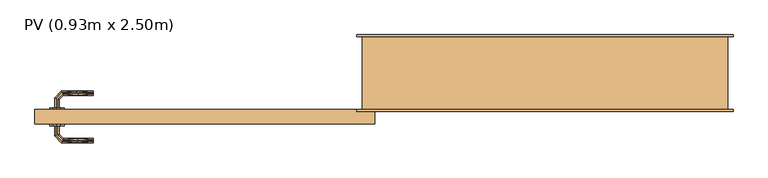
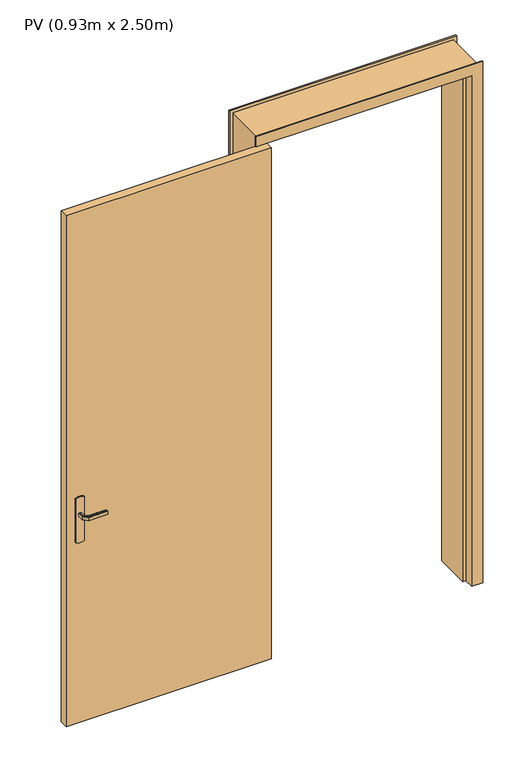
"""IFC4 building model written with IfcOpenShell, lengths in millimetres: door geometry, PV (0.93m x 2.50m)."""

from ifc_helpers import new_model, si_unit, frame, origin, origin_with_axes, place, context, project, spatial, polyline, outline, extrude, faceted_brep, source, transform, mapped, element, save


def pv_0_93m_x_2_50m_2b6c2bcb(model_context):
    return source(origin(), model_context, "Body", "SolidModel", [
        extrude(outline(polyline([(1080.0, -785.0), (870.0, -785.0), (866.0039831, -775.3527618), (864.6410162, -765.0), (866.0039831, -754.6472382), (870.0, -745.0), (1080.0, -745.0), (1083.9960169, -754.6472382), (1085.3589838, -765.0), (1083.9960169, -775.3527618), (1080.0, -785.0)])), frame((0.0, 0.0, 0.0), z_axis=(0.0, 1.0, 0.0), x_axis=(0.0, 0.0, 1.0)), (0.0, 0.0, 1.0), 5.0),
        extrude(outline(polyline([(-825.0, -40.0), (-825.0, 0.0), (105.0, 0.0), (105.0, -40.0), (-825.0, -40.0)])), origin_with_axes(), (0.0, 0.0, 1.0), 2450.0),
        extrude(outline(polyline([(1085.3589838, -765.0), (1083.9960169, -775.3527618), (1080.0, -785.0), (870.0, -785.0), (866.0039831, -775.3527618), (864.6410162, -765.0), (866.0039831, -754.6472382), (870.0, -745.0), (1080.0, -745.0), (1083.9960169, -754.6472382), (1085.3589838, -765.0)])), frame((0.0, -45.0, 0.0), z_axis=(0.0, 1.0, 0.0), x_axis=(0.0, 0.0, 1.0)), (0.0, 0.0, 1.0), 5.0),
        faceted_brep([(1070.0, 200.0, 0.0), (1070.0, 0.0, 0.0), (1085.0, 0.0, 0.0), (1085.0, -5.0, 0.0), (1035.0, -5.0, 0.0), (1035.0, 40.0, 0.0), (1020.0, 40.0, 0.0), (1020.0, 205.0, 0.0), (1085.0, 205.0, 0.0), (1085.0, 200.0, 0.0), (1085.0, 200.0, 2500.0), (55.0, 200.0, 2500.0), (55.0, 200.0, 0.0), (70.0, 200.0, 0.0), (70.0, 200.0, 2485.0), (1070.0, 200.0, 2485.0), (1085.0, 205.0, 2500.0), (1020.0, 205.0, 2435.0), (120.0, 205.0, 2435.0), (120.0, 205.0, 0.0), (55.0, 205.0, 0.0), (55.0, 205.0, 2500.0), (1020.0, 40.0, 2435.0), (1035.0, 40.0, 2450.0), (105.0, 40.0, 2450.0), (105.0, 40.0, 0.0), (120.0, 40.0, 0.0), (120.0, 40.0, 2435.0), (1035.0, -5.0, 2450.0), (1085.0, -5.0, 2500.0), (55.0, -5.0, 2500.0), (55.0, -5.0, 0.0), (105.0, -5.0, 0.0), (105.0, -5.0, 2450.0), (1085.0, 0.0, 2500.0), (1070.0, 0.0, 2485.0), (70.0, 0.0, 2485.0), (70.0, 0.0, 0.0), (55.0, 0.0, 0.0), (55.0, 0.0, 2500.0)], [[[0, 1, 2, 3, 4, 5, 6, 7, 8, 9]], [[9, 10, 11, 12, 13, 14, 15, 0]], [[8, 16, 10, 9]], [[7, 17, 18, 19, 20, 21, 16, 8]], [[7, 6, 22, 17]], [[5, 23, 24, 25, 26, 27, 22, 6]], [[5, 4, 28, 23]], [[3, 29, 30, 31, 32, 33, 28, 4]], [[2, 34, 29, 3]], [[1, 35, 36, 37, 38, 39, 34, 2]], [[0, 15, 35, 1]], [[14, 13, 37, 36]], [[13, 12, 20, 19, 26, 25, 32, 31, 38, 37]], [[21, 20, 12, 11]], [[27, 26, 19, 18]], [[33, 32, 25, 24]], [[39, 38, 31, 30]], [[16, 21, 11, 10]], [[22, 27, 18, 17]], [[28, 33, 24, 23]], [[34, 39, 30, 29]], [[15, 14, 36, 35]]]),
        faceted_brep([(-762.9747013, 5.0, 1007.7804408), (-767.0252987, 5.0, 1007.7804408), (-771.0, 5.0, 1007.0), (-771.0, 5.0, 993.0), (-767.0252987, 5.0, 992.2195592), (-762.9747013, 5.0, 992.2195592), (-759.0, 5.0, 993.0), (-759.0, 5.0, 1007.0), (-767.0252987, 31.0045755, 1007.7804408), (-771.0, 32.6509507, 1007.0), (-762.9747013, 29.3267632, 1007.7804408), (-749.2986025, 43.002862, 1007.7804408), (-750.9764148, 47.0534593, 1007.7804408), (-759.0, 27.680388, 1007.0), (-759.0, 27.680388, 993.0), (-762.9747013, 29.3267632, 992.2195592), (-767.0252987, 31.0045755, 992.2195592), (-750.9764148, 47.0534593, 992.2195592), (-749.2986025, 43.002862, 992.2195592), (-771.0, 32.6509507, 993.0), (-752.62279, 51.0281607, 1007.0), (-747.6522273, 39.0281607, 1007.0), (-747.6522273, 39.0281607, 993.0), (-752.62279, 51.0281607, 993.0), (-664.9813594, 51.0281607, 1007.0), (-664.9813594, 47.0534593, 1007.7804408), (-664.9813594, 43.002862, 1007.7804408), (-664.9813594, 39.0281607, 1007.0), (-664.9813594, 39.0281607, 993.0), (-664.9813594, 43.002862, 992.2195592), (-664.9813594, 47.0534593, 992.2195592), (-664.9813594, 51.0281607, 993.0), (-707.1399809, 45.0281607, 1007.8786868), (-712.6923028, 51.0281607, 1007.0), (-706.3167933, 39.0281607, 1007.0), (-706.3167933, 39.0281607, 993.0), (-707.1399811, 45.0281608, 992.1213132), (-712.6923104, 51.0281607, 993.0)], [[[0, 1, 2, 3, 4, 5, 6, 7]], [[2, 1, 8, 9]], [[1, 0, 10, 11, 12, 8]], [[0, 7, 13, 10]], [[14, 13, 7, 6]], [[5, 15, 14, 6]], [[5, 4, 16, 17, 18, 15]], [[3, 19, 16, 4]], [[9, 19, 3, 2]], [[9, 8, 12, 20]], [[10, 13, 21, 11]], [[22, 21, 13, 14]], [[14, 15, 18, 22]], [[16, 19, 23, 17]], [[20, 23, 19, 9]], [[24, 25, 26, 27, 28, 29, 30, 31]], [[32, 25, 33]], [[33, 25, 24]], [[33, 20, 12]], [[11, 34, 32]], [[34, 11, 21]], [[27, 26, 34]], [[32, 26, 25]], [[32, 34, 26]], [[32, 33, 12]], [[11, 32, 12]], [[21, 22, 35, 28, 27, 34]], [[36, 29, 35]], [[30, 36, 37]], [[18, 35, 22]], [[29, 28, 35]], [[30, 37, 31]], [[37, 17, 23]], [[36, 17, 37]], [[36, 18, 17]], [[36, 35, 18]], [[29, 36, 30]], [[23, 20, 33, 24, 31, 37]]]),
        faceted_brep([(-762.9747013, -45.0, 992.2195592), (-767.0252987, -45.0, 992.2195592), (-771.0, -45.0, 993.0), (-771.0, -45.0, 1007.0), (-767.0252987, -45.0, 1007.7804408), (-762.9747013, -45.0, 1007.7804408), (-759.0, -45.0, 1007.0), (-759.0, -45.0, 993.0), (-759.0, -67.4852045, 1007.0), (-759.0, -67.4852045, 993.0), (-762.9747013, -69.1315797, 1007.7804408), (-767.0252987, -70.8093921, 1007.7804408), (-750.8389062, -86.9957845, 1007.7804408), (-749.1610938, -82.9451872, 1007.7804408), (-771.0, -72.4557673, 1007.0), (-771.0, -72.4557673, 993.0), (-767.0252987, -70.8093921, 992.2195592), (-762.9747013, -69.1315797, 992.2195592), (-749.1610938, -82.9451872, 992.2195592), (-750.8389062, -86.9957845, 992.2195592), (-747.5147186, -78.9704859, 1007.0), (-747.5147186, -78.9704859, 993.0), (-752.4852814, -90.9704859, 1007.0), (-752.4852814, -90.9704859, 993.0), (-664.9542163, -82.9451872, 1007.7804408), (-664.9542163, -86.9957845, 1007.7804408), (-664.9542163, -90.9704859, 1007.0), (-664.9542163, -90.9704859, 993.0), (-664.9542163, -86.9957845, 992.2195592), (-664.9542163, -82.9451872, 992.2195592), (-664.9542163, -78.9704859, 993.0), (-664.9542163, -78.9704859, 1007.0), (-706.2344675, -78.9704859, 1007.0), (-706.2344794, -78.9704859, 993.0), (-707.0576551, -84.9704859, 1007.8786868), (-712.5547942, -90.9704859, 1007.0), (-712.5547957, -90.9704859, 993.0), (-707.0576549, -84.9704858, 992.1213132)], [[[0, 1, 2, 3, 4, 5, 6, 7]], [[8, 9, 7, 6]], [[5, 10, 8, 6]], [[5, 4, 11, 12, 13, 10]], [[3, 14, 11, 4]], [[14, 3, 2, 15]], [[2, 1, 16, 15]], [[1, 0, 17, 18, 19, 16]], [[0, 7, 9, 17]], [[20, 21, 9, 8]], [[8, 10, 13, 20]], [[14, 22, 12, 11]], [[23, 22, 14, 15]], [[15, 16, 19, 23]], [[17, 9, 21, 18]], [[24, 25, 26, 27, 28, 29, 30, 31]], [[21, 20, 32, 31, 30, 33]], [[34, 24, 32]], [[25, 34, 35]], [[13, 32, 20]], [[24, 31, 32]], [[25, 35, 26]], [[35, 12, 22]], [[34, 12, 35]], [[34, 13, 12]], [[34, 32, 13]], [[24, 34, 25]], [[22, 23, 36, 27, 26, 35]], [[37, 28, 36]], [[36, 28, 27]], [[36, 23, 19]], [[18, 33, 37]], [[33, 18, 21]], [[30, 29, 33]], [[37, 29, 28]], [[37, 33, 29]], [[37, 36, 19]], [[18, 37, 19]]]),
    ])


if __name__ == "__main__":
    model = new_model("IFC4")
    model_context = context("Model", 3, world=origin())
    ifc_project = project(units=[si_unit("LENGTHUNIT", "METRE", prefix="MILLI")], contexts=[model_context])
    site = spatial("IfcSite", under=ifc_project)
    building = spatial("IfcBuilding", under=site)
    placement = place(None, origin())
    pv_0_93m_x_2_50m_shape = pv_0_93m_x_2_50m_2b6c2bcb(model_context)
    element("IfcDoor", 1, ObjectType="PV (0.93m x 2.50m)", at=placement, inside=building, context=model_context, shape_type="MappedRepresentation", body=[
        mapped(pv_0_93m_x_2_50m_shape, transform((0.0, 0.0, 0.0), x_axis=(1.0, 0.0, 0.0), y_axis=(0.0, 1.0, 0.0), z_axis=(0.0, 0.0, 1.0))),
    ])
    save(model, "model.ifc")
